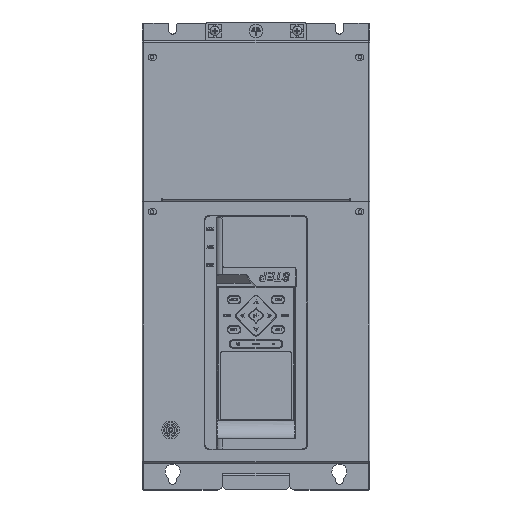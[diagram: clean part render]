
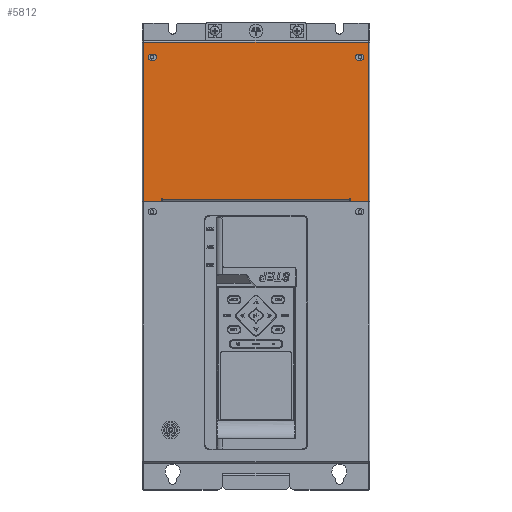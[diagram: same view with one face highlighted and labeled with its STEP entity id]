
A CAD part, top view. The second image highlights one B-rep face of the part: STEP entity #5812.
In plain terms, the highlighted planar face has unit normal (0, 0, 1).
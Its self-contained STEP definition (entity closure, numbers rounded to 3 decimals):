
#5812=ADVANCED_FACE('',(#27481,#27483,#27485),#27487,.T.);
#27481=FACE_BOUND('',#27482,.T.);
#27482=EDGE_LOOP('',(#45872,#45873,#45874,#45875,#45876,#45877,#45878,#45879,#45880,
#45881,#45882,#45883));
#27483=FACE_BOUND('',#27484,.T.);
#27484=EDGE_LOOP('',(#45884,#45885,#45886,#45887));
#27485=FACE_BOUND('',#27486,.T.);
#27486=EDGE_LOOP('',(#45888,#45889,#45890,#45891));
#27487=PLANE('',#27488);
#27488=AXIS2_PLACEMENT_3D('',#27489,#27490,#27491);
#27489=CARTESIAN_POINT('',(-199.858,191.727,122.925));
#27490=DIRECTION('',(0.,0.,1.));
#27491=DIRECTION('',(-1.,0.,0.));
#45872=ORIENTED_EDGE('',*,*,#58533,.T.);
#45873=ORIENTED_EDGE('',*,*,#58560,.T.);
#45874=ORIENTED_EDGE('',*,*,#58561,.T.);
#45875=ORIENTED_EDGE('',*,*,#58562,.T.);
#45876=ORIENTED_EDGE('',*,*,#58480,.T.);
#45877=ORIENTED_EDGE('',*,*,#58563,.T.);
#45878=ORIENTED_EDGE('',*,*,#58564,.T.);
#45879=ORIENTED_EDGE('',*,*,#58565,.T.);
#45880=ORIENTED_EDGE('',*,*,#58505,.T.);
#45881=ORIENTED_EDGE('',*,*,#58484,.T.);
#45882=ORIENTED_EDGE('',*,*,#58471,.T.);
#45883=ORIENTED_EDGE('',*,*,#58508,.T.);
#45884=ORIENTED_EDGE('',*,*,#58559,.F.);
#45885=ORIENTED_EDGE('',*,*,#58557,.F.);
#45886=ORIENTED_EDGE('',*,*,#58555,.F.);
#45887=ORIENTED_EDGE('',*,*,#58446,.F.);
#45888=ORIENTED_EDGE('',*,*,#58535,.F.);
#45889=ORIENTED_EDGE('',*,*,#58540,.F.);
#45890=ORIENTED_EDGE('',*,*,#58450,.F.);
#45891=ORIENTED_EDGE('',*,*,#58538,.F.);
#58446=EDGE_CURVE('',#69374,#69376,#69377,.T.);
#58450=EDGE_CURVE('',#69382,#69384,#69385,.T.);
#58471=EDGE_CURVE('',#69416,#69406,#69419,.T.);
#58480=EDGE_CURVE('',#69433,#69425,#69436,.T.);
#58484=EDGE_CURVE('',#69442,#69416,#69443,.T.);
#58505=EDGE_CURVE('',#69475,#69442,#69476,.T.);
#58508=EDGE_CURVE('',#69406,#69480,#69481,.T.);
#58533=EDGE_CURVE('',#69480,#69519,#69521,.T.);
#58535=EDGE_CURVE('',#69523,#69525,#69526,.T.);
#58538=EDGE_CURVE('',#69525,#69382,#69530,.T.);
#58540=EDGE_CURVE('',#69384,#69523,#69532,.T.);
#58555=EDGE_CURVE('',#69376,#69553,#69554,.T.);
#58557=EDGE_CURVE('',#69553,#69556,#69557,.T.);
#58559=EDGE_CURVE('',#69556,#69374,#69559,.T.);
#58560=EDGE_CURVE('',#69519,#69560,#69561,.T.);
#58561=EDGE_CURVE('',#69560,#69562,#69563,.T.);
#58562=EDGE_CURVE('',#69562,#69433,#69564,.T.);
#58563=EDGE_CURVE('',#69425,#69565,#69566,.T.);
#58564=EDGE_CURVE('',#69565,#69567,#69568,.T.);
#58565=EDGE_CURVE('',#69567,#69475,#69569,.T.);
#69374=VERTEX_POINT('',#95764);
#69376=VERTEX_POINT('',#95768);
#69377=CIRCLE('',#95769,2.75);
#69382=VERTEX_POINT('',#95782);
#69384=VERTEX_POINT('',#95786);
#69385=CIRCLE('',#95787,2.75);
#69406=VERTEX_POINT('',#95835);
#69416=VERTEX_POINT('',#95861);
#69419=LINE('',#95869,#95870);
#69425=VERTEX_POINT('',#95882);
#69433=VERTEX_POINT('',#95900);
#69436=LINE('',#95908,#95909);
#69442=VERTEX_POINT('',#95923);
#69443=LINE('',#95924,#95925);
#69475=VERTEX_POINT('',#96002);
#69476=LINE('',#96003,#96004);
#69480=VERTEX_POINT('',#96013);
#69481=LINE('',#96014,#96015);
#69519=VERTEX_POINT('',#96105);
#69521=LINE('',#96109,#96110);
#69523=VERTEX_POINT('',#96113);
#69525=VERTEX_POINT('',#96117);
#69526=CIRCLE('',#96118,2.75);
#69530=LINE('',#96130,#96131);
#69532=LINE('',#96136,#96137);
#69553=VERTEX_POINT('',#96188);
#69554=LINE('',#96189,#96190);
#69556=VERTEX_POINT('',#96195);
#69557=CIRCLE('',#96196,2.75);
#69559=LINE('',#96203,#96204);
#69560=VERTEX_POINT('',#96206);
#69561=LINE('',#96207,#96208);
#69562=VERTEX_POINT('',#96210);
#69563=LINE('',#96211,#96212);
#69564=LINE('',#96214,#96215);
#69565=VERTEX_POINT('',#96217);
#69566=LINE('',#96218,#96219);
#69567=VERTEX_POINT('',#96221);
#69568=LINE('',#96222,#96223);
#69569=LINE('',#96225,#96226);
#95764=CARTESIAN_POINT('',(-294.058,251.727,122.925));
#95768=CARTESIAN_POINT('',(-294.058,246.227,122.925));
#95769=AXIS2_PLACEMENT_3D('',#95770,#95771,#95772);
#95770=CARTESIAN_POINT('',(-294.058,248.977,122.925));
#95771=DIRECTION('',(0.,0.,1.));
#95772=DIRECTION('',(0.,1.,0.));
#95782=CARTESIAN_POINT('',(-107.658,251.727,122.925));
#95786=CARTESIAN_POINT('',(-107.658,246.227,122.925));
#95787=AXIS2_PLACEMENT_3D('',#95788,#95789,#95790);
#95788=CARTESIAN_POINT('',(-107.658,248.977,122.925));
#95789=DIRECTION('',(0.,0.,1.));
#95790=DIRECTION('',(0.,1.,0.));
#95835=CARTESIAN_POINT('',(-300.958,262.577,122.925));
#95861=CARTESIAN_POINT('',(-98.758,262.577,122.925));
#95869=CARTESIAN_POINT('',(-98.758,262.577,122.925));
#95870=VECTOR('',#95871,1.);
#95871=DIRECTION('',(-1.,0.,0.));
#95882=CARTESIAN_POINT('',(-115.358,120.877,122.925));
#95900=CARTESIAN_POINT('',(-284.358,120.877,122.925));
#95908=CARTESIAN_POINT('',(-284.358,120.877,122.925));
#95909=VECTOR('',#95910,1.);
#95910=DIRECTION('',(1.,0.,0.));
#95923=CARTESIAN_POINT('',(-98.758,119.477,122.925));
#95924=CARTESIAN_POINT('',(-98.758,119.477,122.925));
#95925=VECTOR('',#95926,1.);
#95926=DIRECTION('',(0.,1.,0.));
#96002=CARTESIAN_POINT('',(-114.758,119.477,122.925));
#96003=CARTESIAN_POINT('',(-114.758,119.477,122.925));
#96004=VECTOR('',#96005,1.);
#96005=DIRECTION('',(1.,0.,0.));
#96013=CARTESIAN_POINT('',(-300.958,119.477,122.925));
#96014=CARTESIAN_POINT('',(-300.958,262.577,122.925));
#96015=VECTOR('',#96016,1.);
#96016=DIRECTION('',(0.,-1.,0.));
#96105=CARTESIAN_POINT('',(-284.958,119.477,122.925));
#96109=CARTESIAN_POINT('',(-300.958,119.477,122.925));
#96110=VECTOR('',#96111,1.);
#96111=DIRECTION('',(1.,0.,0.));
#96113=CARTESIAN_POINT('',(-105.658,246.227,122.925));
#96117=CARTESIAN_POINT('',(-105.658,251.727,122.925));
#96118=AXIS2_PLACEMENT_3D('',#96119,#96120,#96121);
#96119=CARTESIAN_POINT('',(-105.658,248.977,122.925));
#96120=DIRECTION('',(0.,0.,1.));
#96121=DIRECTION('',(0.,-1.,0.));
#96130=CARTESIAN_POINT('',(-105.658,251.727,122.925));
#96131=VECTOR('',#96132,1.);
#96132=DIRECTION('',(-1.,0.,0.));
#96136=CARTESIAN_POINT('',(-107.658,246.227,122.925));
#96137=VECTOR('',#96138,1.);
#96138=DIRECTION('',(1.,0.,0.));
#96188=CARTESIAN_POINT('',(-292.058,246.227,122.925));
#96189=CARTESIAN_POINT('',(-294.058,246.227,122.925));
#96190=VECTOR('',#96191,1.);
#96191=DIRECTION('',(1.,0.,0.));
#96195=CARTESIAN_POINT('',(-292.058,251.727,122.925));
#96196=AXIS2_PLACEMENT_3D('',#96197,#96198,#96199);
#96197=CARTESIAN_POINT('',(-292.058,248.977,122.925));
#96198=DIRECTION('',(0.,0.,1.));
#96199=DIRECTION('',(0.,-1.,0.));
#96203=CARTESIAN_POINT('',(-292.058,251.727,122.925));
#96204=VECTOR('',#96205,1.);
#96205=DIRECTION('',(-1.,0.,0.));
#96206=CARTESIAN_POINT('',(-284.958,121.477,122.925));
#96207=CARTESIAN_POINT('',(-284.958,119.477,122.925));
#96208=VECTOR('',#96209,1.);
#96209=DIRECTION('',(0.,1.,0.));
#96210=CARTESIAN_POINT('',(-284.358,121.477,122.925));
#96211=CARTESIAN_POINT('',(-284.958,121.477,122.925));
#96212=VECTOR('',#96213,1.);
#96213=DIRECTION('',(1.,0.,0.));
#96214=CARTESIAN_POINT('',(-284.358,121.477,122.925));
#96215=VECTOR('',#96216,1.);
#96216=DIRECTION('',(0.,-1.,0.));
#96217=CARTESIAN_POINT('',(-115.358,121.477,122.925));
#96218=CARTESIAN_POINT('',(-115.358,120.877,122.925));
#96219=VECTOR('',#96220,1.);
#96220=DIRECTION('',(0.,1.,0.));
#96221=CARTESIAN_POINT('',(-114.758,121.477,122.925));
#96222=CARTESIAN_POINT('',(-115.358,121.477,122.925));
#96223=VECTOR('',#96224,1.);
#96224=DIRECTION('',(1.,0.,0.));
#96225=CARTESIAN_POINT('',(-114.758,121.477,122.925));
#96226=VECTOR('',#96227,1.);
#96227=DIRECTION('',(0.,-1.,0.));
